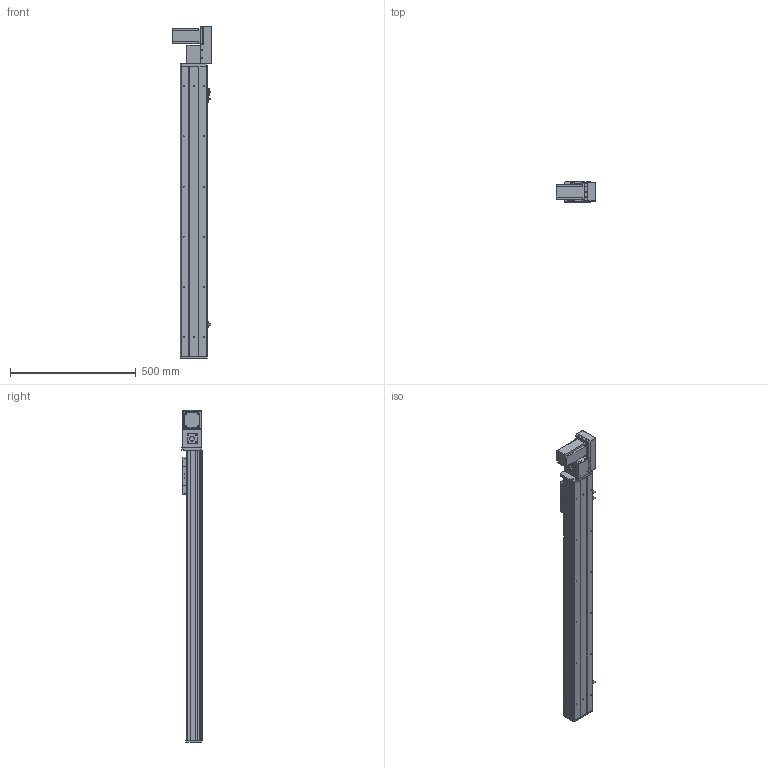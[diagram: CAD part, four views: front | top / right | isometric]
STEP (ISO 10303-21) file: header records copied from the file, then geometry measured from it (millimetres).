
FILE_DESCRIPTION (( 'STEP AP203' ), '1' );
FILE_NAME ('Y10CB-D90-S900-BR-P400W.STEP', '2020-02-16T01:45:28', ( '微软用户' ), ( '微软中国' ), 'SwSTEP 2.0', 'SolidWorks 2017', '' );
FILE_SCHEMA (( 'CONFIG_CONTROL_DESIGN' ));
Length unit declared in the file: millimetre
Products named in the file (18): Y10CB- 掛极耜裔啣-毀---; Y10B-々湍喘謫眊楊擘啣--; Y10C---詩湍揤啣; Y10B-耜蚾蟀諉啣----; 10CB9-掛极; 0B-萇儂楊擘啣; 10CB-耜裔; san松下电机400不带刹车----; Y135C-陔俋离換覜結え-; 0B-源倛裔啣; Y100-135俋离換覜ん--; 0B-埴倛裔啣; Y10B--々湍喘謫眊--666; Y俋欶BR----; 0CB-雄赽釱---; Y10CB-D90-S900-BR-P400W; 10CB-詩湍-; 0Cb-俋欶---
Assembly tree (21 placements, depth 2):
  Y10CB-D90-S900-BR-P400W
    0CB-雄赽釱---
    0Cb-俋欶---
    Y10B-々湍喘謫眊楊擘啣--
    Y10B-耜蚾蟀諉啣----
    0B-萇儂楊擘啣
    san松下电机400不带刹车----
    0B-源倛裔啣
    0B-埴倛裔啣
    Y俋欶BR----
    10CB-詩湍-
    Y10CB- 掛极耜裔啣-毀---  x2
    Y10C---詩湍揤啣  x2
    10CB9-掛极
    10CB-耜裔
    Y135C-陔俋离換覜結え-
    Y100-135俋离換覜ん--  x3
    Y10B--々湍喘謫眊--666
Bounding box: 157.5 x 80.5 x 1322.5 mm (x, y, z)
Volume: 2962418.7 mm3; surface area: 1324512.3 mm2
Topology: 21 solids, 21 shells, 978 faces, 2603 edges, 1706 vertices
Faces by surface type: cylinder 477, plane 477, cone 24
Entity records: 30404 total; most frequent: CARTESIAN_POINT 5321, DIRECTION 4926, ORIENTED_EDGE 4676, EDGE_CURVE 2338, AXIS2_PLACEMENT_3D 1761, VERTEX_POINT 1532, LINE 1404, VECTOR 1404
